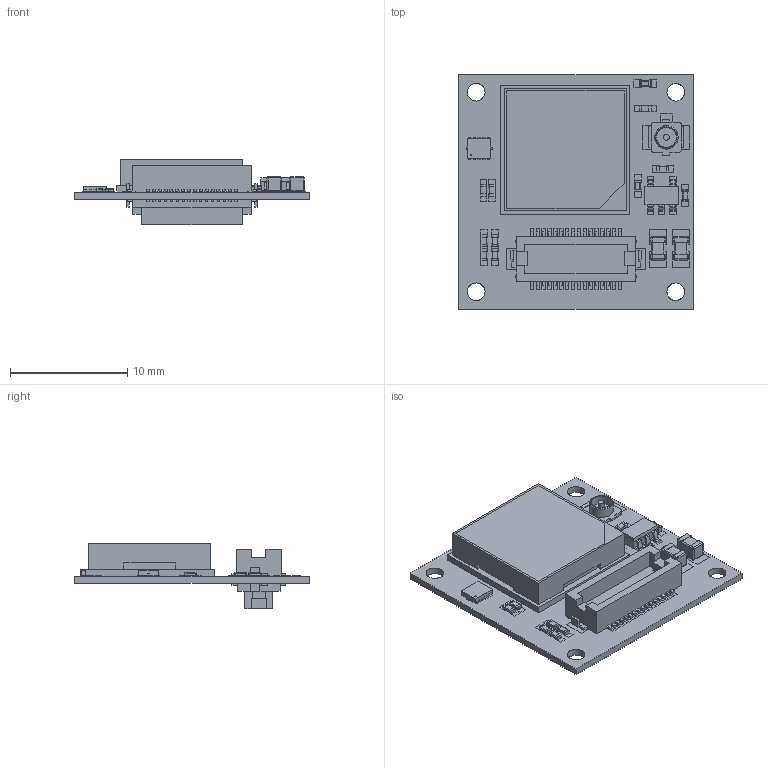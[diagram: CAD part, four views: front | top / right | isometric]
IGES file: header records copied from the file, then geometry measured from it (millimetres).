
Global section: file name: Filename.iges; native system: Open CASCADE 7.4; preprocessor: Open CASCADE IGES processor 7.4; date: 20200716.145154; units: millimetre
Bounding box: 20 x 20 x 5.6 mm (x, y, z)
Surface area: 3533.7 mm2 (no closed solid volume)
Topology: 0 solids, 0 shells, 3118 faces, 15680 edges, 18226 vertices
Faces by surface type: plane 2768, revolution 350
